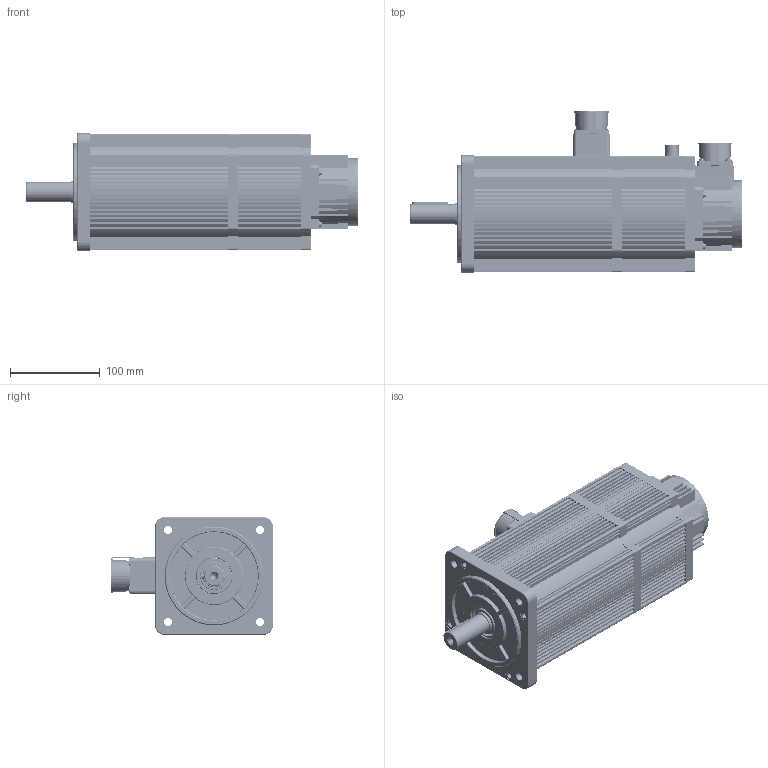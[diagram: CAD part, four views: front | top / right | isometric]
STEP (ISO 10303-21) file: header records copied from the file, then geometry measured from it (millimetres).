
FILE_DESCRIPTION (( 'STEP AP203' ), '1' );
FILE_NAME ('K1-130蚾饜 15Nm 2500Rpm 惕掅.STEP', '2020-01-11T05:12:50', ( 'gs' ), ( 'Microsoft' ), 'SwSTEP 2.0', 'SolidWorks 2019', '' );
FILE_SCHEMA (( 'CONFIG_CONTROL_DESIGN' ));
Length unit declared in the file: millimetre
Products named in the file (27): K1-130瑤脣 惕掅(10Nm眕奻); K1-110晤鎢ん誘欶; K1-130瑤脣15郋; M4X16啋儂; K1-130密封圈; M3X12啋儂; K1-130瑤脣雄薯盄; K1-130誘欶躇猾菜; M3す菜; K1-130机壳加工后 抱闸 10Nm以上; K1-130儂褲樓馱綴 15Nm 2500Rpm; curved single coil spring lock washers gb_GB_FASTENER_WASHER_CSLW 4; K1-130す瑩; K1-130綴傷裔 陬諾; M6X100; K1-130隅赽郪璃 15Nm 2500Rpm; M6粟菜; K1-130瑤脣砎蝶菜; K1-130粣 惕掅15Nm 2500Rpm; K1-130蚾饜 15Nm 2500Rpm 惕掅; K1-130ヶ傷裔 譙跡; M6X20; K1-130諉盄釱; K1-130蛌赽郪璃 15Nm 2500Rpm 惕掅; K1-130綴傷裔 惕掅(10Nm眕奻); K1-130盄簽砎蝶菜; M3X8啋儂
Assembly tree (73 placements, depth 3):
  K1-130蚾饜 15Nm 2500Rpm 惕掅
    K1-130隅赽郪璃 15Nm 2500Rpm
      K1-130儂褲樓馱綴 15Nm 2500Rpm
    K1-130ヶ傷裔 譙跡
    K1-130綴傷裔 惕掅(10Nm眕奻)
    K1-110晤鎢ん誘欶
    K1-130密封圈
    K1-130誘欶躇猾菜
    curved single coil spring lock washers gb_GB_FASTENER_WASHER_CSLW 4  x18
    M6粟菜  x8
    M6X20  x4
    K1-130盄簽砎蝶菜  x2
    K1-130瑤脣15郋
    M3X12啋儂  x4
    M3す菜  x8
    K1-130す瑩
    K1-130瑤脣砎蝶菜
    K1-130諉盄釱
    M3X8啋儂  x4
    M4X16啋儂  x4
    K1-130瑤脣雄薯盄
    K1-130机壳加工后 抱闸 10Nm以上
    K1-130綴傷裔 陬諾
    K1-130蛌赽郪璃 15Nm 2500Rpm 惕掅
      K1-130粣 惕掅15Nm 2500Rpm
    K1-130瑤脣 惕掅(10Nm眕奻)
    M6X100  x4
Bounding box: 370 x 180.1 x 131 mm (x, y, z)
Volume: 1328155.8 mm3; surface area: 656012.1 mm2
Topology: 73 solids, 75 shells, 3929 faces, 10642 edges, 6999 vertices
Faces by surface type: cylinder 2238, plane 1388, bspline 146, cone 95, torus 62
Entity records: 142881 total; most frequent: CARTESIAN_POINT 74204, ORIENTED_EDGE 14742, DIRECTION 12315, EDGE_CURVE 7371, VERTEX_POINT 4840, AXIS2_PLACEMENT_3D 4208, LINE 3899, VECTOR 3899
